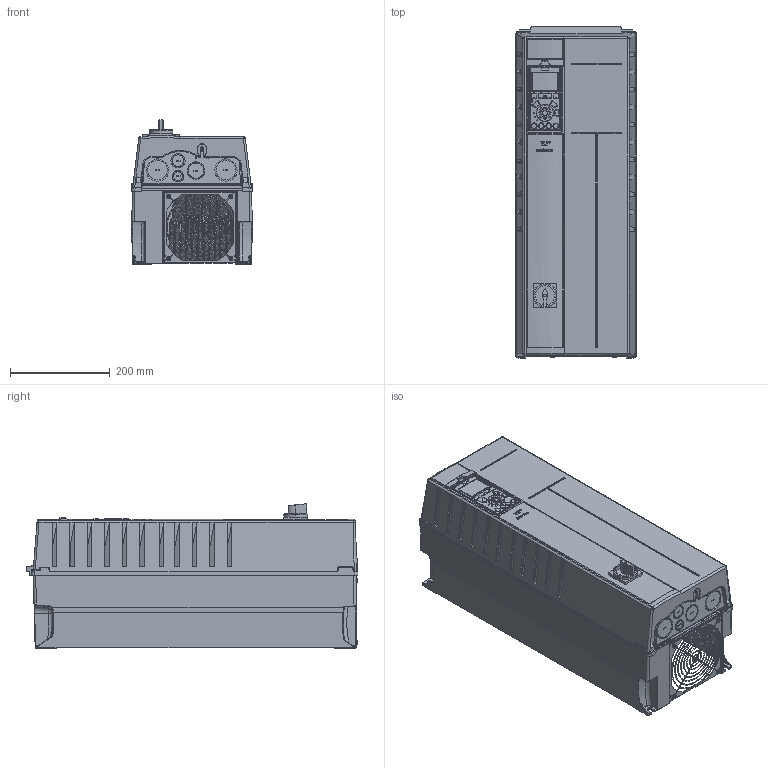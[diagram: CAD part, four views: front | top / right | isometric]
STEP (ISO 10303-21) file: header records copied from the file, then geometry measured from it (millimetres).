
FILE_DESCRIPTION((''),'2;1');
FILE_NAME('DANFOSS-FC100-B2-IP21-SWITCH','2011-11-09T',('cstephenkumar'),('Be-Atch INC. 1993'),'PRO/ENGINEER BY PARAMETRIC TECHNOLOGY CORPORATION, 2009360','PRO/ENGINEER BY PARAMETRIC TECHNOLOGY CORPORATION, 2009360','');
FILE_SCHEMA(('AUTOMOTIVE_DESIGN { 1 0 10303 214 1 1 1 1 }'));
Products named in the file (1): DANFOSS-FC100-B2-IP21-SWITCH
Bounding box: 242.5 x 664.32 x 289.1 mm (x, y, z)
Volume: 26236880.8 mm3; surface area: 2558622.6 mm2
Topology: 1 solids, 16 shells, 5456 faces, 13913 edges, 8506 vertices
Faces by surface type: cylinder 1921, plane 1711, bspline 1305, torus 199, cone 141, extrusion 115, sphere 64
Entity records: 225227 total; most frequent: CARTESIAN_POINT 99710, ORIENTED_EDGE 27784, DIRECTION 21348, EDGE_CURVE 13892, VERTEX_POINT 8506, AXIS2_PLACEMENT_3D 7286, VECTOR 6776, LINE 6661
